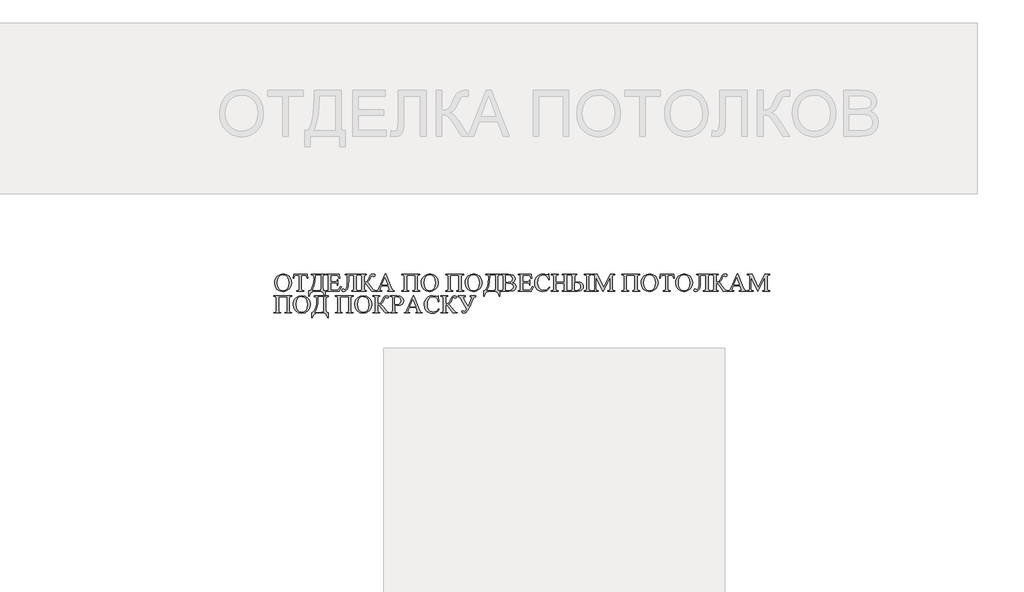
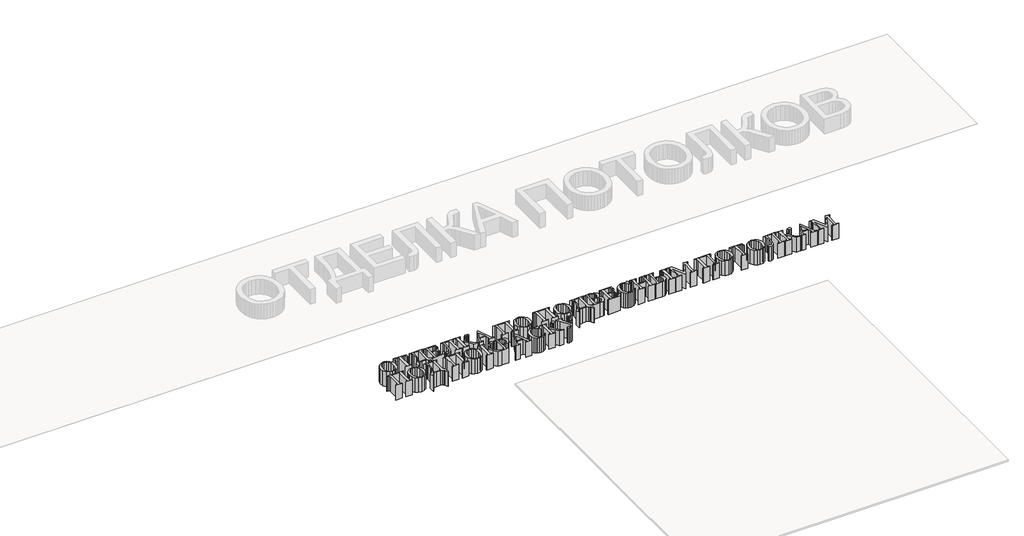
# One storey, part 16 of 17: 1 proxy.
"""IFC4 building model written with IfcOpenShell, lengths in millimetres."""

from ifc_helpers import new_model, si_unit, origin, origin_with_axes, place, context, project, spatial, polyline, outline, extrude, element, save

model = new_model("IFC4")

# Units and contexts
model_context = context("Model", 3, world=origin())
ifc_project = project(units=[si_unit("LENGTHUNIT", "METRE", prefix="MILLI")], contexts=[model_context])

# Site, building, storey
site = spatial("IfcSite", under=ifc_project)
building = spatial("IfcBuilding", under=site)
storey = spatial("IfcBuildingStorey", under=building, Name="Уровень 1", Elevation=0.0)

# Proxy
placement = place(None, origin())
element("IfcBuildingElementProxy", 1, Name="SG_Текст 2", ObjectType="SG_Текст 2", at=placement, inside=storey, context=model_context, shape_type="SweptSolid", body=[
    extrude(outline(polyline([(6805.5457971, 17619.3850863), (6833.251642, 17613.9243699), (6856.9951991, 17597.5422205), (6873.317009, 17572.994138), (6878.7576123, 17543.0356218), (6873.2767827, 17512.2273257), (6856.834294, 17487.1412168), (6832.6080216, 17470.4724553), (6803.7758411, 17464.9162014), (6774.7978403, 17470.3366916), (6750.8581801, 17486.5981621), (6734.7928127, 17511.4680548), (6729.4376902, 17542.7138117), (6730.9838876, 17559.485653), (6735.6224796, 17574.6434152), (6743.3534663, 17588.1870981), (6754.1768476, 17600.116702), (6777.7594996, 17614.5679902), (6805.5457971, 17619.3850863)]), holes=[polyline([(6803.4138046, 17611.6616421), (6784.9700589, 17607.9809382), (6770.5891666, 17596.9388265), (6759.0341699, 17574.3417181), (6755.1825044, 17543.2367532), (6759.1749619, 17511.1965275), (6771.1523344, 17487.4831401), (6785.3823782, 17476.3505193), (6803.5344835, 17472.6396457), (6823.1447911, 17476.7024992), (6839.0140555, 17488.8910596), (6849.5131125, 17509.8388908), (6853.0127981, 17540.1795565), (6849.1611326, 17573.3260047), (6837.6061359, 17596.8181476), (6822.8833203, 17607.9507685), (6803.4138046, 17611.6616421)])]), origin_with_axes(), (0.0, 0.0, 1.0), 150.0),
    extrude(outline(polyline([(7017.7796087, 17616.8106049), (7020.3540901, 17583.3423465), (7016.1705578, 17583.3423465), (7012.7513247, 17596.6170163), (7003.3987164, 17606.0500771), (6987.971941, 17609.0871606), (6966.2899804, 17609.0871606), (6966.2899804, 17493.235497), (6969.186272, 17474.9727695), (6981.8173214, 17470.0651643), (6986.8858317, 17470.0651643), (6986.8858317, 17467.4906828), (6925.0982777, 17467.4906828), (6925.0982777, 17470.0651643), (6930.2472406, 17470.0651643), (6938.1215333, 17471.583706), (6943.320779, 17476.1393313), (6945.6941291, 17493.235497), (6945.6941291, 17609.0871606), (6927.8336643, 17609.0871606), (6913.0303961, 17607.5585623), (6903.255412, 17599.4931947), (6898.4282593, 17583.3423465), (6894.2045008, 17583.3423465), (6896.7789822, 17616.8106049), (7017.7796087, 17616.8106049)])), origin_with_axes(), (0.0, 0.0, 1.0), 150.0),
    extrude(outline(polyline([(7051.2478671, 17616.8106049), (7174.8229749, 17616.8106049), (7174.8229749, 17611.6616421), (7157.9078275, 17607.2769784), (7154.2271236, 17588.6924407), (7154.2271236, 17506.4699405), (7156.9826233, 17476.9840831), (7162.820461, 17472.7603245), (7174.8229749, 17471.352405), (7174.8229749, 17423.7244988), (7169.6740121, 17423.7244988), (7159.3961996, 17450.4950829), (7151.8236039, 17458.9677414), (7143.3056908, 17464.0714497), (7121.764522, 17467.4906828), (7084.9172568, 17467.4906828), (7063.9493125, 17464.04128), (7049.3974585, 17453.6930715), (7040.3264342, 17439.3021227), (7035.8009786, 17423.7244988), (7030.6520157, 17423.7244988), (7030.6520157, 17471.352405), (7046.0033668, 17477.3964023), (7058.186899, 17492.4711978), (7067.162386, 17514.2939504), (7072.8896014, 17540.5818193), (7076.9926812, 17587.3649737), (7074.1366159, 17603.4554825), (7067.358489, 17609.9117992), (7051.2478671, 17611.6616421), (7051.2478671, 17616.8106049)]), holes=[polyline([(7089.8650883, 17609.0871606), (7085.9028005, 17553.1676141), (7079.4867101, 17516.8684318), (7070.5363645, 17493.2103556), (7058.9713113, 17475.2141271), (7113.3572312, 17475.2141271), (7130.7550939, 17477.8087216), (7133.6312723, 17494.7238691), (7133.6312723, 17609.0871606), (7089.8650883, 17609.0871606)])]), origin_with_axes(), (0.0, 0.0, 1.0), 150.0),
    extrude(outline(polyline([(7223.7381218, 17609.0871606), (7223.7381218, 17549.8740881), (7259.7808616, 17549.8740881), (7276.6356696, 17553.5346789), (7281.050503, 17560.1820703), (7282.9511944, 17570.4699394), (7285.5256758, 17570.4699394), (7285.5256758, 17521.5547925), (7282.9511944, 17521.5547925), (7279.8939977, 17534.5076522), (7273.4980204, 17540.1192171), (7259.7808616, 17542.1506439), (7223.7381218, 17542.1506439), (7223.7381218, 17492.1896139), (7224.6633261, 17479.9608272), (7227.901541, 17476.5013678), (7236.6507552, 17475.2141271), (7263.2000948, 17475.2141271), (7282.4885922, 17477.0645356), (7294.0536455, 17484.3857171), (7308.6960085, 17506.1079041), (7313.8449713, 17506.1079041), (7300.2484914, 17467.4906828), (7182.5464192, 17467.4906828), (7182.5464192, 17470.0651643), (7187.6551557, 17470.0651643), (7197.3094611, 17472.7200982), (7201.9153692, 17478.2109844), (7203.1422705, 17493.235497), (7203.1422705, 17591.0657907), (7200.3666577, 17609.5698759), (7187.6551557, 17614.2361235), (7182.5464192, 17614.2361235), (7182.5464192, 17616.8106049), (7298.3980828, 17616.8106049), (7300.9725643, 17583.3423465), (7295.8236014, 17583.3423465), (7290.5539598, 17600.3178333), (7281.9857638, 17607.3574309), (7265.9757075, 17609.0871606), (7223.7381218, 17609.0871606)])), origin_with_axes(), (0.0, 0.0, 1.0), 150.0),
    extrude(outline(polyline([(7427.1221536, 17609.0871606), (7380.7814881, 17609.0871606), (7380.7814881, 17566.8898012), (7377.9958188, 17514.2185262), (7369.6388107, 17483.9633413), (7356.3842541, 17469.6779864), (7338.9059388, 17464.9162014), (7326.073758, 17468.8986024), (7321.5684156, 17478.150645), (7324.4647072, 17485.1299032), (7331.5043048, 17488.0865342), (7339.4288804, 17484.4259434), (7348.4797916, 17480.3630899), (7357.3144866, 17484.3605757), (7364.349056, 17496.3530331), (7368.9499358, 17519.4982244), (7370.4835624, 17556.953912), (7370.4835624, 17588.4108568), (7366.8028586, 17607.2367521), (7349.8877111, 17611.6616421), (7349.8877111, 17616.8106049), (7468.3138562, 17616.8106049), (7468.3138562, 17614.2361235), (7451.3987088, 17609.8313467), (7447.7180049, 17591.0657907), (7447.7180049, 17493.235497), (7451.3987088, 17474.4699411), (7468.3138562, 17470.0651643), (7468.3138562, 17467.4906828), (7406.5263023, 17467.4906828), (7406.5263023, 17470.0651643), (7423.4414497, 17474.4699411), (7427.1221536, 17493.235497), (7427.1221536, 17609.0871606)])), origin_with_axes(), (0.0, 0.0, 1.0), 150.0),
    extrude(outline(polyline([(7621.4150478, 17471.5937626), (7621.4150478, 17467.4906828), (7582.4357901, 17467.4906828), (7555.6450929, 17505.3234918), (7530.7450305, 17536.2977213), (7517.2290031, 17539.5761624), (7517.2290031, 17493.235497), (7520.8493676, 17474.4699411), (7537.8248544, 17470.0651643), (7537.8248544, 17467.4906828), (7476.0373004, 17467.4906828), (7476.0373004, 17470.0651643), (7492.9122216, 17474.4297148), (7496.6331518, 17493.235497), (7496.6331518, 17591.0657907), (7492.9524479, 17609.8313467), (7476.0373004, 17614.2361235), (7476.0373004, 17616.8106049), (7537.8248544, 17616.8106049), (7537.8248544, 17614.2361235), (7520.8493676, 17609.8313467), (7517.2290031, 17591.0657907), (7517.2290031, 17547.2996067), (7534.1039242, 17548.9287707), (7544.6432075, 17555.8476895), (7553.9153632, 17567.4931953), (7562.6846905, 17588.0085941), (7570.8908501, 17606.633358), (7581.1083232, 17615.6239299), (7597.8424524, 17619.3850863), (7610.7550857, 17616.2876633), (7615.0592968, 17606.9953945), (7611.6601768, 17599.4328553), (7603.8763932, 17596.2147536), (7593.3773362, 17600.277607), (7584.3666512, 17603.9381978), (7578.2120316, 17600.1971545), (7570.0460983, 17581.1299015), (7557.8575379, 17557.7483809), (7542.6922333, 17544.8055778), (7553.3924217, 17536.0161374), (7569.3220254, 17516.2449246), (7598.4056202, 17480.6849001), (7608.8644509, 17474.0073389), (7621.4150478, 17471.5937626)])), origin_with_axes(), (0.0, 0.0, 1.0), 150.0),
    extrude(outline(polyline([(7726.6872019, 17516.4058297), (7668.4395599, 17516.4058297), (7658.8254809, 17494.0400224), (7655.0844376, 17480.1217323), (7658.3427656, 17473.6855287), (7672.4219608, 17470.0651643), (7672.4219608, 17467.4906828), (7624.9549598, 17467.4906828), (7624.9549598, 17470.0651643), (7637.1032939, 17474.7314118), (7649.6136646, 17498.1028759), (7701.9882708, 17619.3850863), (7707.4992701, 17619.3850863), (7756.6557746, 17496.1317886), (7768.1202622, 17475.4152584), (7782.440815, 17470.0651643), (7782.440815, 17467.4906828), (7723.4288739, 17467.4906828), (7723.4288739, 17470.0651643), (7735.5168686, 17473.3838317), (7738.674631, 17480.2826374), (7734.2497411, 17497.4190293), (7726.6872019, 17516.4058297)]), holes=[polyline([(7723.5897789, 17524.129274), (7698.7299428, 17584.750266), (7671.7783405, 17524.129274), (7723.5897789, 17524.129274)])]), origin_with_axes(), (0.0, 0.0, 1.0), 150.0),
    extrude(outline(polyline([(7965.1887692, 17609.0871606), (7890.5288082, 17609.0871606), (7890.5288082, 17493.235497), (7894.1491727, 17474.4699411), (7911.1246595, 17470.0651643), (7911.1246595, 17467.4906828), (7849.3371055, 17467.4906828), (7849.3371055, 17470.0651643), (7866.252253, 17474.4699411), (7869.9329569, 17493.235497), (7869.9329569, 17591.0657907), (7866.252253, 17609.8313467), (7849.3371055, 17614.2361235), (7849.3371055, 17616.8106049), (8006.3804718, 17616.8106049), (8006.3804718, 17614.2361235), (7989.4653244, 17609.8313467), (7985.7846205, 17591.0657907), (7985.7846205, 17493.235497), (7989.4653244, 17474.4699411), (8006.3804718, 17470.0651643), (8006.3804718, 17467.4906828), (7944.5929179, 17467.4906828), (7944.5929179, 17470.0651643), (7961.4879522, 17474.4297148), (7965.1887692, 17493.235497), (7965.1887692, 17609.0871606)])), origin_with_axes(), (0.0, 0.0, 1.0), 150.0),
    extrude(outline(polyline([(8095.3609857, 17619.3850863), (8123.0668306, 17613.9243699), (8146.8103877, 17597.5422205), (8163.1321976, 17572.994138), (8168.5728009, 17543.0356218), (8163.0919714, 17512.2273257), (8146.6494826, 17487.1412168), (8122.4232103, 17470.4724553), (8093.5910297, 17464.9162014), (8064.613029, 17470.3366916), (8040.6733688, 17486.5981621), (8024.6080014, 17511.4680548), (8019.2528789, 17542.7138117), (8020.7990762, 17559.485653), (8025.4376682, 17574.6434152), (8033.1686549, 17588.1870981), (8043.9920362, 17600.116702), (8067.5746883, 17614.5679902), (8095.3609857, 17619.3850863)]), holes=[polyline([(8093.2289933, 17611.6616421), (8074.7852475, 17607.9809382), (8060.4043552, 17596.9388265), (8048.8493586, 17574.3417181), (8044.997693, 17543.2367532), (8048.9901505, 17511.1965275), (8060.9675231, 17487.4831401), (8075.1975668, 17476.3505193), (8093.3496721, 17472.6396457), (8112.9599797, 17476.7024992), (8128.8292441, 17488.8910596), (8139.3283011, 17509.8388908), (8142.8279868, 17540.1795565), (8138.9763212, 17573.3260047), (8127.4213246, 17596.8181476), (8112.698509, 17607.9507685), (8093.2289933, 17611.6616421)])]), origin_with_axes(), (0.0, 0.0, 1.0), 150.0),
    extrude(outline(polyline([(8351.3609814, 17609.0871606), (8276.7010203, 17609.0871606), (8276.7010203, 17493.235497), (8280.3213848, 17474.4699411), (8297.2968716, 17470.0651643), (8297.2968716, 17467.4906828), (8235.5093177, 17467.4906828), (8235.5093177, 17470.0651643), (8252.4244651, 17474.4699411), (8256.105169, 17493.235497), (8256.105169, 17591.0657907), (8252.4244651, 17609.8313467), (8235.5093177, 17614.2361235), (8235.5093177, 17616.8106049), (8392.552684, 17616.8106049), (8392.552684, 17614.2361235), (8375.6375366, 17609.8313467), (8371.9568327, 17591.0657907), (8371.9568327, 17493.235497), (8375.6375366, 17474.4699411), (8392.552684, 17470.0651643), (8392.552684, 17467.4906828), (8330.76513, 17467.4906828), (8330.76513, 17470.0651643), (8347.6601643, 17474.4297148), (8351.3609814, 17493.235497), (8351.3609814, 17609.0871606)])), origin_with_axes(), (0.0, 0.0, 1.0), 150.0),
    extrude(outline(polyline([(8481.5331979, 17619.3850863), (8509.2390428, 17613.9243699), (8532.9825999, 17597.5422205), (8549.3044098, 17572.994138), (8554.7450131, 17543.0356218), (8549.2641835, 17512.2273257), (8532.8216948, 17487.1412168), (8508.5954224, 17470.4724553), (8479.7632419, 17464.9162014), (8450.7852411, 17470.3366916), (8426.845581, 17486.5981621), (8410.7802135, 17511.4680548), (8405.4250911, 17542.7138117), (8406.9712884, 17559.485653), (8411.6098804, 17574.6434152), (8419.3408671, 17588.1870981), (8430.1642484, 17600.116702), (8453.7469004, 17614.5679902), (8481.5331979, 17619.3850863)]), holes=[polyline([(8479.4012055, 17611.6616421), (8460.9574597, 17607.9809382), (8446.5765674, 17596.9388265), (8435.0215708, 17574.3417181), (8431.1699052, 17543.2367532), (8435.1623627, 17511.1965275), (8447.1397352, 17487.4831401), (8461.369779, 17476.3505193), (8479.5218843, 17472.6396457), (8499.1321919, 17476.7024992), (8515.0014563, 17488.8910596), (8525.5005133, 17509.8388908), (8529.000199, 17540.1795565), (8525.1485334, 17573.3260047), (8513.5935367, 17596.8181476), (8498.8707211, 17607.9507685), (8479.4012055, 17611.6616421)])]), origin_with_axes(), (0.0, 0.0, 1.0), 150.0),
    extrude(outline(polyline([(8588.2132715, 17616.8106049), (8711.7883794, 17616.8106049), (8711.7883794, 17611.6616421), (8694.873232, 17607.2769784), (8691.1925281, 17588.6924407), (8691.1925281, 17506.4699405), (8693.9480277, 17476.9840831), (8699.7858654, 17472.7603245), (8711.7883794, 17471.352405), (8711.7883794, 17423.7244988), (8706.6394165, 17423.7244988), (8696.361604, 17450.4950829), (8688.7890083, 17458.9677414), (8680.2710952, 17464.0714497), (8658.7299265, 17467.4906828), (8621.8826612, 17467.4906828), (8600.9147169, 17464.04128), (8586.362863, 17453.6930715), (8577.2918386, 17439.3021227), (8572.766383, 17423.7244988), (8567.6174202, 17423.7244988), (8567.6174202, 17471.352405), (8582.9687713, 17477.3964023), (8595.1523034, 17492.4711978), (8604.1277904, 17514.2939504), (8609.8550059, 17540.5818193), (8613.9580856, 17587.3649737), (8611.1020203, 17603.4554825), (8604.3238935, 17609.9117992), (8588.2132715, 17611.6616421), (8588.2132715, 17616.8106049)]), holes=[polyline([(8626.8304927, 17609.0871606), (8622.8682049, 17553.1676141), (8616.4521145, 17516.8684318), (8607.501769, 17493.2103556), (8595.9367157, 17475.2141271), (8650.3226356, 17475.2141271), (8667.7204983, 17477.8087216), (8670.5966767, 17494.7238691), (8670.5966767, 17609.0871606), (8626.8304927, 17609.0871606)])]), origin_with_axes(), (0.0, 0.0, 1.0), 150.0),
    extrude(outline(polyline([(8819.0718471, 17542.8344905), (8832.7890059, 17538.5906188), (8842.56399, 17532.3756597), (8850.6796404, 17521.2430389), (8853.3848572, 17507.87786), (8851.6299861, 17497.1223605), (8846.3653727, 17486.8194066), (8838.0435626, 17478.1053904), (8827.1171015, 17472.1167041), (8789.7468947, 17467.4906828), (8719.5118236, 17467.4906828), (8719.5118236, 17470.0651643), (8724.8619178, 17470.0651643), (8732.5350792, 17471.6038192), (8737.6940986, 17476.2197839), (8740.1076749, 17493.235497), (8740.1076749, 17591.0657907), (8737.0504783, 17609.2078395), (8724.8619178, 17614.2361235), (8719.5118236, 17614.2361235), (8719.5118236, 17616.8106049), (8783.3911437, 17616.8106049), (8812.0724757, 17614.1556709), (8826.5036508, 17608.5893605), (8837.0529907, 17599.9356837), (8843.5093074, 17588.9689963), (8845.6614129, 17576.463654), (8843.9769378, 17565.7131827), (8838.9235124, 17556.1493866), (8830.5916457, 17548.3354332), (8819.0718471, 17542.8344905)]), holes=[polyline([(8760.7035263, 17478.150645), (8786.247209, 17475.2141271), (8804.0423062, 17477.4316003), (8817.0404203, 17484.0840201), (8824.9901374, 17493.9947679), (8827.640043, 17505.9872252), (8822.7927772, 17522.5001099), (8816.4571394, 17529.600047), (8807.1447574, 17535.0104806), (8780.4143996, 17539.5761624), (8768.6079887, 17539.354918), (8760.7035263, 17538.6107319), (8760.7035263, 17478.150645)]), polyline([(8760.7035263, 17548.8684313), (8770.1164739, 17547.7018694), (8781.7418666, 17547.2996067), (8806.2195531, 17550.7992924), (8813.0479628, 17555.2241823), (8817.1610991, 17561.4994807), (8819.9165988, 17577.2681794), (8817.3521739, 17589.4919378), (8809.6588994, 17599.7747786), (8797.0479631, 17606.7590651), (8779.730553, 17609.0871606), (8760.7035263, 17606.633358), (8760.7035263, 17548.8684313)])]), origin_with_axes(), (0.0, 0.0, 1.0), 150.0),
    extrude(outline(polyline([(8912.5979297, 17609.0871606), (8912.5979297, 17549.8740881), (8948.6406695, 17549.8740881), (8965.4954775, 17553.5346789), (8969.9103109, 17560.1820703), (8971.8110022, 17570.4699394), (8974.3854837, 17570.4699394), (8974.3854837, 17521.5547925), (8971.8110022, 17521.5547925), (8968.7538056, 17534.5076522), (8962.3578283, 17540.1192171), (8948.6406695, 17542.1506439), (8912.5979297, 17542.1506439), (8912.5979297, 17492.1896139), (8913.523134, 17479.9608272), (8916.7613489, 17476.5013678), (8925.510563, 17475.2141271), (8952.0599026, 17475.2141271), (8971.3484001, 17477.0645356), (8982.9134533, 17484.3857171), (8997.5558164, 17506.1079041), (9002.7047792, 17506.1079041), (8989.1082992, 17467.4906828), (8871.4062271, 17467.4906828), (8871.4062271, 17470.0651643), (8876.5149636, 17470.0651643), (8886.1692689, 17472.7200982), (8890.7751771, 17478.2109844), (8892.0020784, 17493.235497), (8892.0020784, 17591.0657907), (8889.2264656, 17609.5698759), (8876.5149636, 17614.2361235), (8871.4062271, 17614.2361235), (8871.4062271, 17616.8106049), (8987.2578907, 17616.8106049), (8989.8323721, 17583.3423465), (8984.6834093, 17583.3423465), (8979.4137677, 17600.3178333), (8970.8455717, 17607.3574309), (8954.8355154, 17609.0871606), (8912.5979297, 17609.0871606)])), origin_with_axes(), (0.0, 0.0, 1.0), 150.0),
    extrude(outline(polyline([(9141.7267756, 17619.3850863), (9144.301257, 17567.895458), (9141.7267756, 17567.895458), (9133.6161535, 17587.9231132), (9122.6394095, 17601.4240558), (9108.997675, 17609.1022455), (9092.8920813, 17611.6616421), (9079.0291022, 17609.8062053), (9066.5639862, 17604.2398949), (9056.0548726, 17594.6057027), (9048.059901, 17580.5466206), (9043.0064756, 17562.2889213), (9041.3220004, 17540.0588777), (9042.926023, 17521.4341137), (9047.7380908, 17505.4642837), (9055.778317, 17492.5315372), (9067.0668146, 17483.0180239), (9080.884539, 17477.1651013), (9096.5124457, 17475.2141271), (9121.8751103, 17480.9061446), (9133.4150221, 17489.4089729), (9146.0309867, 17503.5334226), (9149.4502198, 17500.9589412), (9137.3370836, 17484.7628384), (9123.3634824, 17473.5849631), (9107.0567573, 17467.0833918), (9087.9442498, 17464.9162014), (9070.5036467, 17466.6182756), (9055.1497815, 17471.724498), (9041.8826541, 17480.2348687), (9030.7022646, 17492.1493876), (9019.3584559, 17514.2134979), (9015.5771863, 17539.8577464), (9018.0762434, 17561.0821332), (9025.5734149, 17580.5063943), (9037.45525, 17596.9438547), (9053.1082982, 17609.2078395), (9071.4615348, 17616.8407746), (9091.4439355, 17619.3850863), (9123.303143, 17613.4718243), (9129.9002516, 17611.6616421), (9135.0894407, 17613.2304667), (9139.1522942, 17619.3850863), (9141.7267756, 17619.3850863)])), origin_with_axes(), (0.0, 0.0, 1.0), 150.0),
    extrude(outline(polyline([(9203.5143295, 17547.2996067), (9278.1742906, 17547.2996067), (9278.1742906, 17591.0657907), (9276.8065973, 17606.633358), (9272.3414811, 17611.500737), (9262.6871758, 17614.2361235), (9257.5784392, 17614.2361235), (9257.5784392, 17616.8106049), (9319.3659932, 17616.8106049), (9319.3659932, 17614.2361235), (9314.2572566, 17614.2361235), (9304.6029513, 17611.6214158), (9299.9970432, 17606.1104165), (9298.7701419, 17591.0657907), (9298.7701419, 17493.235497), (9300.1378351, 17477.708156), (9304.5224988, 17472.8005508), (9314.2572566, 17470.0651643), (9319.3659932, 17470.0651643), (9319.3659932, 17467.4906828), (9257.5784392, 17467.4906828), (9257.5784392, 17470.0651643), (9262.6871758, 17470.0651643), (9270.2999978, 17471.4630272), (9275.5193566, 17475.6566161), (9278.1742906, 17493.235497), (9278.1742906, 17539.5761624), (9203.5143295, 17539.5761624), (9203.5143295, 17493.235497), (9204.8820228, 17477.708156), (9209.3069127, 17472.8005508), (9218.9209918, 17470.0651643), (9224.1101809, 17470.0651643), (9224.1101809, 17467.4906828), (9162.3226269, 17467.4906828), (9162.3226269, 17470.0651643), (9167.4313635, 17470.0651643), (9175.1145814, 17471.4630272), (9180.3842231, 17475.6566161), (9182.9184782, 17493.235497), (9182.9184782, 17591.0657907), (9181.550785, 17606.633358), (9177.1661213, 17611.500737), (9167.4313635, 17614.2361235), (9162.3226269, 17614.2361235), (9162.3226269, 17616.8106049), (9224.1101809, 17616.8106049), (9224.1101809, 17614.2361235), (9218.9209918, 17614.2361235), (9209.3069127, 17611.6214158), (9204.7814571, 17606.1104165), (9203.5143295, 17591.0657907), (9203.5143295, 17547.2996067)])), origin_with_axes(), (0.0, 0.0, 1.0), 150.0),
    extrude(outline(polyline([(9368.2811401, 17549.8740881), (9374.3955334, 17549.8740881), (9415.7079149, 17546.3945156), (9427.6802591, 17541.320977), (9437.2088573, 17533.0595064), (9443.4389012, 17522.218526), (9445.5155825, 17509.4064584), (9442.4231878, 17493.7332971), (9433.1460038, 17480.1016191), (9416.2962241, 17470.6434169), (9390.4860423, 17467.4906828), (9327.0894374, 17467.4906828), (9327.0894374, 17470.0651643), (9344.0045848, 17474.4699411), (9347.6852887, 17493.235497), (9347.6852887, 17591.0657907), (9344.0045848, 17609.8313467), (9327.0894374, 17614.2361235), (9327.0894374, 17616.8106049), (9388.8769914, 17616.8106049), (9388.8769914, 17614.2361235), (9371.961844, 17609.8313467), (9368.2811401, 17591.0657907), (9368.2811401, 17549.8740881)]), holes=[polyline([(9368.2811401, 17476.7829517), (9383.647576, 17475.2141271), (9396.7864821, 17477.4869115), (9408.6079778, 17484.3052646), (9416.9800707, 17495.1361883), (9419.7707684, 17509.4466846), (9416.8543636, 17523.9432275), (9408.1051494, 17534.1255026), (9394.8707059, 17540.1443585), (9378.4986132, 17542.1506439), (9368.2811401, 17541.2656659), (9368.2811401, 17476.7829517)])]), origin_with_axes(), (0.0, 0.0, 1.0), 150.0),
    extrude(outline(polyline([(9515.0265807, 17470.0651643), (9515.0265807, 17467.4906828), (9453.2390267, 17467.4906828), (9453.2390267, 17470.0651643), (9457.5030116, 17470.0651643), (9467.4590139, 17472.3379486), (9472.6079768, 17478.2713238), (9473.8348781, 17493.235497), (9473.8348781, 17591.4680535), (9472.5074111, 17606.2713216), (9467.2981088, 17612.2248099), (9456.5375811, 17614.2361235), (9453.2390267, 17614.2361235), (9453.2390267, 17616.8106049), (9515.0265807, 17616.8106049), (9515.0265807, 17614.2361235), (9511.8487052, 17614.2361235), (9501.2289694, 17612.1845836), (9495.858762, 17606.190869), (9494.4307294, 17591.0657907), (9494.4307294, 17493.235497), (9497.7292837, 17474.751525), (9502.9084162, 17471.2367544), (9511.8487052, 17470.0651643), (9515.0265807, 17470.0651643)])), origin_with_axes(), (0.0, 0.0, 1.0), 150.0),
    extrude(outline(polyline([(9615.4313558, 17467.4906828), (9556.2182833, 17593.1173306), (9556.2182833, 17493.235497), (9559.1145749, 17474.9727695), (9571.6651718, 17470.0651643), (9576.8141346, 17470.0651643), (9576.8141346, 17467.4906828), (9525.3245063, 17467.4906828), (9525.3245063, 17470.0651643), (9530.4734692, 17470.0651643), (9538.3477619, 17471.583706), (9543.5470076, 17476.1393313), (9545.9203577, 17493.235497), (9545.9203577, 17591.0657907), (9543.7883652, 17606.2713216), (9538.2371397, 17611.9633391), (9525.3245063, 17614.2361235), (9525.3245063, 17616.8106049), (9567.6023183, 17616.8106049), (9622.7123111, 17499.6717005), (9680.3163327, 17616.8106049), (9720.9850938, 17616.8106049), (9720.9850938, 17614.2361235), (9715.9568098, 17614.2361235), (9707.992008, 17612.7175817), (9702.7625926, 17608.1619564), (9700.3892425, 17591.0657907), (9700.3892425, 17493.235497), (9703.4062129, 17474.9727695), (9715.9568098, 17470.0651643), (9720.9850938, 17470.0651643), (9720.9850938, 17467.4906828), (9659.1975399, 17467.4906828), (9659.1975399, 17470.0651643), (9664.3465027, 17470.0651643), (9672.2811349, 17471.583706), (9677.4200412, 17476.1393313), (9679.7933912, 17493.235497), (9679.7933912, 17593.1173306), (9618.0058373, 17467.4906828), (9615.4313558, 17467.4906828)])), origin_with_axes(), (0.0, 0.0, 1.0), 150.0),
    extrude(outline(polyline([(9898.6243114, 17609.0871606), (9823.9643504, 17609.0871606), (9823.9643504, 17493.235497), (9827.5847149, 17474.4699411), (9844.5602017, 17470.0651643), (9844.5602017, 17467.4906828), (9782.7726478, 17467.4906828), (9782.7726478, 17470.0651643), (9799.6877952, 17474.4699411), (9803.3684991, 17493.235497), (9803.3684991, 17591.0657907), (9799.6877952, 17609.8313467), (9782.7726478, 17614.2361235), (9782.7726478, 17616.8106049), (9939.8160141, 17616.8106049), (9939.8160141, 17614.2361235), (9922.9008667, 17609.8313467), (9919.2201628, 17591.0657907), (9919.2201628, 17493.235497), (9922.9008667, 17474.4699411), (9939.8160141, 17470.0651643), (9939.8160141, 17467.4906828), (9878.0284601, 17467.4906828), (9878.0284601, 17470.0651643), (9894.9234944, 17474.4297148), (9898.6243114, 17493.235497), (9898.6243114, 17609.0871606)])), origin_with_axes(), (0.0, 0.0, 1.0), 150.0),
    extrude(outline(polyline([(10028.796528, 17619.3850863), (10056.5023729, 17613.9243699), (10080.24593, 17597.5422205), (10096.5677399, 17572.994138), (10102.0083432, 17543.0356218), (10096.5275136, 17512.2273257), (10080.0850249, 17487.1412168), (10055.8587525, 17470.4724553), (10027.026572, 17464.9162014), (9998.0485712, 17470.3366916), (9974.108911, 17486.5981621), (9958.0435436, 17511.4680548), (9952.6884211, 17542.7138117), (9954.2346185, 17559.485653), (9958.8732105, 17574.6434152), (9966.6041971, 17588.1870981), (9977.4275785, 17600.116702), (10001.0102305, 17614.5679902), (10028.796528, 17619.3850863)]), holes=[polyline([(10026.6645355, 17611.6616421), (10008.2207898, 17607.9809382), (9993.8398975, 17596.9388265), (9982.2849008, 17574.3417181), (9978.4332353, 17543.2367532), (9982.4256928, 17511.1965275), (9994.4030653, 17487.4831401), (10008.6331091, 17476.3505193), (10026.7852144, 17472.6396457), (10046.395522, 17476.7024992), (10062.2647863, 17488.8910596), (10072.7638434, 17509.8388908), (10076.263529, 17540.1795565), (10072.4118635, 17573.3260047), (10060.8568668, 17596.8181476), (10046.1340512, 17607.9507685), (10026.6645355, 17611.6616421)])]), origin_with_axes(), (0.0, 0.0, 1.0), 150.0),
    extrude(outline(polyline([(10241.0303396, 17616.8106049), (10243.604821, 17583.3423465), (10239.4212887, 17583.3423465), (10236.0020555, 17596.6170163), (10226.6494473, 17606.0500771), (10211.2226719, 17609.0871606), (10189.5407113, 17609.0871606), (10189.5407113, 17493.235497), (10192.4370029, 17474.9727695), (10205.0680523, 17470.0651643), (10210.1365626, 17470.0651643), (10210.1365626, 17467.4906828), (10148.3490086, 17467.4906828), (10148.3490086, 17470.0651643), (10153.4979715, 17470.0651643), (10161.3722642, 17471.583706), (10166.5715099, 17476.1393313), (10168.94486, 17493.235497), (10168.94486, 17609.0871606), (10151.0843951, 17609.0871606), (10136.281127, 17607.5585623), (10126.5061429, 17599.4931947), (10121.6789902, 17583.3423465), (10117.4552317, 17583.3423465), (10120.0297131, 17616.8106049), (10241.0303396, 17616.8106049)])), origin_with_axes(), (0.0, 0.0, 1.0), 150.0),
    extrude(outline(polyline([(10332.5853349, 17619.3850863), (10360.2911798, 17613.9243699), (10384.0347369, 17597.5422205), (10400.3565468, 17572.994138), (10405.7971501, 17543.0356218), (10400.3163205, 17512.2273257), (10383.8738318, 17487.1412168), (10359.6475594, 17470.4724553), (10330.8153789, 17464.9162014), (10301.8373781, 17470.3366916), (10277.8977179, 17486.5981621), (10261.8323505, 17511.4680548), (10256.477228, 17542.7138117), (10258.0234254, 17559.485653), (10262.6620174, 17574.6434152), (10270.3930041, 17588.1870981), (10281.2163854, 17600.116702), (10304.7990374, 17614.5679902), (10332.5853349, 17619.3850863)]), holes=[polyline([(10330.4533424, 17611.6616421), (10312.0095967, 17607.9809382), (10297.6287044, 17596.9388265), (10286.0737077, 17574.3417181), (10282.2220422, 17543.2367532), (10286.2144997, 17511.1965275), (10298.1918722, 17487.4831401), (10312.421916, 17476.3505193), (10330.5740213, 17472.6396457), (10350.1843289, 17476.7024992), (10366.0535932, 17488.8910596), (10376.5526503, 17509.8388908), (10380.0523359, 17540.1795565), (10376.2006704, 17573.3260047), (10364.6456737, 17596.8181476), (10349.9228581, 17607.9507685), (10330.4533424, 17611.6616421)])]), origin_with_axes(), (0.0, 0.0, 1.0), 150.0),
    extrude(outline(polyline([(10521.6488137, 17609.0871606), (10475.3081483, 17609.0871606), (10475.3081483, 17566.8898012), (10472.5224789, 17514.2185262), (10464.1654709, 17483.9633413), (10450.9109142, 17469.6779864), (10433.432599, 17464.9162014), (10420.6004182, 17468.8986024), (10416.0950757, 17478.150645), (10418.9913673, 17485.1299032), (10426.030965, 17488.0865342), (10433.9555406, 17484.4259434), (10443.0064518, 17480.3630899), (10451.8411468, 17484.3605757), (10458.8757161, 17496.3530331), (10463.476596, 17519.4982244), (10465.0102226, 17556.953912), (10465.0102226, 17588.4108568), (10461.3295187, 17607.2367521), (10444.4143713, 17611.6616421), (10444.4143713, 17616.8106049), (10562.8405164, 17616.8106049), (10562.8405164, 17614.2361235), (10545.9253689, 17609.8313467), (10542.2446651, 17591.0657907), (10542.2446651, 17493.235497), (10545.9253689, 17474.4699411), (10562.8405164, 17470.0651643), (10562.8405164, 17467.4906828), (10501.0529624, 17467.4906828), (10501.0529624, 17470.0651643), (10517.9681098, 17474.4699411), (10521.6488137, 17493.235497), (10521.6488137, 17609.0871606)])), origin_with_axes(), (0.0, 0.0, 1.0), 150.0),
    extrude(outline(polyline([(10715.941708, 17471.5937626), (10715.941708, 17467.4906828), (10676.9624503, 17467.4906828), (10650.1717531, 17505.3234918), (10625.2716907, 17536.2977213), (10611.7556632, 17539.5761624), (10611.7556632, 17493.235497), (10615.3760277, 17474.4699411), (10632.3515146, 17470.0651643), (10632.3515146, 17467.4906828), (10570.5639606, 17467.4906828), (10570.5639606, 17470.0651643), (10587.4388818, 17474.4297148), (10591.1598119, 17493.235497), (10591.1598119, 17591.0657907), (10587.479108, 17609.8313467), (10570.5639606, 17614.2361235), (10570.5639606, 17616.8106049), (10632.3515146, 17616.8106049), (10632.3515146, 17614.2361235), (10615.3760277, 17609.8313467), (10611.7556632, 17591.0657907), (10611.7556632, 17547.2996067), (10628.6305844, 17548.9287707), (10639.1698677, 17555.8476895), (10648.4420234, 17567.4931953), (10657.2113507, 17588.0085941), (10665.4175102, 17606.633358), (10675.6349833, 17615.6239299), (10692.3691125, 17619.3850863), (10705.2817459, 17616.2876633), (10709.585957, 17606.9953945), (10706.186837, 17599.4328553), (10698.4030533, 17596.2147536), (10687.9039963, 17600.277607), (10678.8933114, 17603.9381978), (10672.7386917, 17600.1971545), (10664.5727585, 17581.1299015), (10652.3841981, 17557.7483809), (10637.2188935, 17544.8055778), (10647.9190819, 17536.0161374), (10663.8486856, 17516.2449246), (10692.9322803, 17480.6849001), (10703.3911111, 17474.0073389), (10715.941708, 17471.5937626)])), origin_with_axes(), (0.0, 0.0, 1.0), 150.0),
    extrude(outline(polyline([(10821.2138621, 17516.4058297), (10762.9662201, 17516.4058297), (10753.352141, 17494.0400224), (10749.6110977, 17480.1217323), (10752.8694258, 17473.6855287), (10766.948621, 17470.0651643), (10766.948621, 17467.4906828), (10719.4816199, 17467.4906828), (10719.4816199, 17470.0651643), (10731.6299541, 17474.7314118), (10744.1403247, 17498.1028759), (10796.514931, 17619.3850863), (10802.0259303, 17619.3850863), (10851.1824348, 17496.1317886), (10862.6469223, 17475.4152584), (10876.9674752, 17470.0651643), (10876.9674752, 17467.4906828), (10817.955534, 17467.4906828), (10817.955534, 17470.0651643), (10830.0435288, 17473.3838317), (10833.2012912, 17480.2826374), (10828.7764012, 17497.4190293), (10821.2138621, 17516.4058297)]), holes=[polyline([(10818.1164391, 17524.129274), (10793.256603, 17584.750266), (10766.3050007, 17524.129274), (10818.1164391, 17524.129274)])]), origin_with_axes(), (0.0, 0.0, 1.0), 150.0),
    extrude(outline(polyline([(10977.3320241, 17467.4906828), (10918.1189516, 17593.1173306), (10918.1189516, 17493.235497), (10921.0152432, 17474.9727695), (10933.56584, 17470.0651643), (10938.7148029, 17470.0651643), (10938.7148029, 17467.4906828), (10887.2251746, 17467.4906828), (10887.2251746, 17470.0651643), (10892.3741374, 17470.0651643), (10900.2484302, 17471.583706), (10905.4476758, 17476.1393313), (10907.8210259, 17493.235497), (10907.8210259, 17591.0657907), (10905.6890335, 17606.2713216), (10900.1378079, 17611.9633391), (10887.2251746, 17614.2361235), (10887.2251746, 17616.8106049), (10929.5029866, 17616.8106049), (10984.6129793, 17499.6717005), (11042.217001, 17616.8106049), (11082.8857621, 17616.8106049), (11082.8857621, 17614.2361235), (11077.8574781, 17614.2361235), (11069.8926762, 17612.7175817), (11064.6632608, 17608.1619564), (11062.2899108, 17591.0657907), (11062.2899108, 17493.235497), (11065.3068812, 17474.9727695), (11077.8574781, 17470.0651643), (11082.8857621, 17470.0651643), (11082.8857621, 17467.4906828), (11021.0982081, 17467.4906828), (11021.0982081, 17470.0651643), (11026.247171, 17470.0651643), (11034.1818031, 17471.583706), (11039.3207094, 17476.1393313), (11041.6940595, 17493.235497), (11041.6940595, 17593.1173306), (10979.9065055, 17467.4906828), (10977.3320241, 17467.4906828)])), origin_with_axes(), (0.0, 0.0, 1.0), 150.0),
    extrude(outline(polyline([(6840.1403911, 17417.895458), (6765.4804301, 17417.895458), (6765.4804301, 17302.0437944), (6769.1007945, 17283.2782384), (6786.0762814, 17278.8734616), (6786.0762814, 17276.2989802), (6724.2887274, 17276.2989802), (6724.2887274, 17278.8734616), (6741.2038748, 17283.2782384), (6744.8845787, 17302.0437944), (6744.8845787, 17399.8740881), (6741.2038748, 17418.639644), (6724.2887274, 17423.0444208), (6724.2887274, 17425.6189023), (6881.3320937, 17425.6189023), (6881.3320937, 17423.0444208), (6864.4169463, 17418.639644), (6860.7362424, 17399.8740881), (6860.7362424, 17302.0437944), (6864.4169463, 17283.2782384), (6881.3320937, 17278.8734616), (6881.3320937, 17276.2989802), (6819.5445398, 17276.2989802), (6819.5445398, 17278.8734616), (6836.439574, 17283.2380122), (6840.1403911, 17302.0437944), (6840.1403911, 17417.895458)])), origin_with_axes(), (0.0, 0.0, 1.0), 150.0),
    extrude(outline(polyline([(6970.3126076, 17428.1933837), (6998.0184525, 17422.7326672), (7021.7620096, 17406.3505179), (7038.0838195, 17381.8024354), (7043.5244228, 17351.8439192), (7038.0435932, 17321.0356231), (7021.6011045, 17295.9495141), (6997.3748321, 17279.2807526), (6968.5426516, 17273.7244988), (6939.5646509, 17279.144989), (6915.6249907, 17295.4064595), (6899.5596232, 17320.2763522), (6894.2045008, 17351.522109), (6895.7506981, 17368.2939504), (6900.3892901, 17383.4517125), (6908.1202768, 17396.9953955), (6918.9436581, 17408.9249993), (6942.5263101, 17423.3762876), (6970.3126076, 17428.1933837)]), holes=[polyline([(6968.1806152, 17420.4699394), (6949.7368694, 17416.7892355), (6935.3559771, 17405.7471238), (6923.8009805, 17383.1500155), (6919.9493149, 17352.0450506), (6923.9417724, 17320.0048249), (6935.9191449, 17296.2914374), (6950.1491887, 17285.1588166), (6968.301294, 17281.447943), (6987.9116016, 17285.5107965), (7003.780866, 17297.699357), (7014.279923, 17318.6471882), (7017.7796087, 17348.9878539), (7013.9279431, 17382.1343021), (7002.3729465, 17405.626445), (6987.6501309, 17416.7590658), (6968.1806152, 17420.4699394)])]), origin_with_axes(), (0.0, 0.0, 1.0), 150.0),
    extrude(outline(polyline([(7076.9926812, 17425.6189023), (7200.5677891, 17425.6189023), (7200.5677891, 17420.4699394), (7183.6526417, 17416.0852758), (7179.9719378, 17397.5007381), (7179.9719378, 17315.2782379), (7182.7274374, 17285.7923804), (7188.5652752, 17281.5686219), (7200.5677891, 17280.1607023), (7200.5677891, 17232.5327962), (7195.4188263, 17232.5327962), (7185.1410137, 17259.3033803), (7177.568418, 17267.7760388), (7169.0505049, 17272.8797471), (7147.5093362, 17276.2989802), (7110.6620709, 17276.2989802), (7089.6941266, 17272.8495774), (7075.1422727, 17262.5013689), (7066.0712483, 17248.11042), (7061.5457927, 17232.5327962), (7056.3968299, 17232.5327962), (7056.3968299, 17280.1607023), (7071.748181, 17286.2046997), (7083.9317131, 17301.2794952), (7092.9072001, 17323.1022478), (7098.6344156, 17349.3901166), (7102.7374953, 17396.1732711), (7099.88143, 17412.2637799), (7093.1033032, 17418.7200966), (7076.9926812, 17420.4699394), (7076.9926812, 17425.6189023)]), holes=[polyline([(7115.6099024, 17417.895458), (7111.6476146, 17361.9759115), (7105.2315242, 17325.6767292), (7096.2811787, 17302.0186529), (7084.7161254, 17284.0224245), (7139.1020453, 17284.0224245), (7156.499908, 17286.617019), (7159.3760865, 17303.5321664), (7159.3760865, 17417.895458), (7115.6099024, 17417.895458)])]), origin_with_axes(), (0.0, 0.0, 1.0), 150.0),
    extrude(outline(polyline([(7380.7814881, 17417.895458), (7306.1215271, 17417.895458), (7306.1215271, 17302.0437944), (7309.7418916, 17283.2782384), (7326.7173784, 17278.8734616), (7326.7173784, 17276.2989802), (7264.9298245, 17276.2989802), (7264.9298245, 17278.8734616), (7281.8449719, 17283.2782384), (7285.5256758, 17302.0437944), (7285.5256758, 17399.8740881), (7281.8449719, 17418.639644), (7264.9298245, 17423.0444208), (7264.9298245, 17425.6189023), (7421.9731907, 17425.6189023), (7421.9731907, 17423.0444208), (7405.0580433, 17418.639644), (7401.3773394, 17399.8740881), (7401.3773394, 17302.0437944), (7405.0580433, 17283.2782384), (7421.9731907, 17278.8734616), (7421.9731907, 17276.2989802), (7360.1856368, 17276.2989802), (7360.1856368, 17278.8734616), (7377.0806711, 17283.2380122), (7380.7814881, 17302.0437944), (7380.7814881, 17417.895458)])), origin_with_axes(), (0.0, 0.0, 1.0), 150.0),
    extrude(outline(polyline([(7510.9537046, 17428.1933837), (7538.6595495, 17422.7326672), (7562.4031066, 17406.3505179), (7578.7249165, 17381.8024354), (7584.1655198, 17351.8439192), (7578.6846903, 17321.0356231), (7562.2422016, 17295.9495141), (7538.0159292, 17279.2807526), (7509.1837487, 17273.7244988), (7480.2057479, 17279.144989), (7456.2660877, 17295.4064595), (7440.2007203, 17320.2763522), (7434.8455978, 17351.522109), (7436.3917951, 17368.2939504), (7441.0303871, 17383.4517125), (7448.7613738, 17396.9953955), (7459.5847552, 17408.9249993), (7483.1674072, 17423.3762876), (7510.9537046, 17428.1933837)]), holes=[polyline([(7508.8217122, 17420.4699394), (7490.3779664, 17416.7892355), (7475.9970742, 17405.7471238), (7464.4420775, 17383.1500155), (7460.590412, 17352.0450506), (7464.5828695, 17320.0048249), (7476.560242, 17296.2914374), (7490.7902857, 17285.1588166), (7508.942391, 17281.447943), (7528.5526987, 17285.5107965), (7544.421963, 17297.699357), (7554.92102, 17318.6471882), (7558.4207057, 17348.9878539), (7554.5690401, 17382.1343021), (7543.0140435, 17405.626445), (7528.2912279, 17416.7590658), (7508.8217122, 17420.4699394)])]), origin_with_axes(), (0.0, 0.0, 1.0), 150.0),
    extrude(outline(polyline([(7739.8411929, 17280.40206), (7739.8411929, 17276.2989802), (7700.8619352, 17276.2989802), (7674.071238, 17314.1317891), (7649.1711756, 17345.1060186), (7635.6551481, 17348.3844598), (7635.6551481, 17302.0437944), (7639.2755126, 17283.2782384), (7656.2509995, 17278.8734616), (7656.2509995, 17276.2989802), (7594.4634455, 17276.2989802), (7594.4634455, 17278.8734616), (7611.3383667, 17283.2380122), (7615.0592968, 17302.0437944), (7615.0592968, 17399.8740881), (7611.3785929, 17418.639644), (7594.4634455, 17423.0444208), (7594.4634455, 17425.6189023), (7656.2509995, 17425.6189023), (7656.2509995, 17423.0444208), (7639.2755126, 17418.639644), (7635.6551481, 17399.8740881), (7635.6551481, 17356.1079041), (7652.5300693, 17357.7370681), (7663.0693526, 17364.6559869), (7672.3415083, 17376.3014927), (7681.1108356, 17396.8168914), (7689.3169951, 17415.4416554), (7699.5344682, 17424.4322272), (7716.2685974, 17428.1933837), (7729.1812308, 17425.0959607), (7733.4854419, 17415.8036919), (7730.0863219, 17408.2411527), (7722.3025382, 17405.0230509), (7711.8034812, 17409.0859044), (7702.7927963, 17412.7464952), (7696.6381766, 17409.0054519), (7688.4722434, 17389.9381989), (7676.283683, 17366.5566782), (7661.1183784, 17353.6138752), (7671.8185668, 17344.8244347), (7687.7481705, 17325.053222), (7716.8317652, 17289.4931975), (7727.290596, 17282.8156363), (7739.8411929, 17280.40206)])), origin_with_axes(), (0.0, 0.0, 1.0), 150.0),
    extrude(outline(polyline([(7787.5495516, 17346.5742776), (7787.5495516, 17302.0437944), (7790.5262957, 17283.9017456), (7802.6344036, 17278.8734616), (7808.1454029, 17278.8734616), (7808.1454029, 17276.2989802), (7746.357849, 17276.2989802), (7746.357849, 17278.8734616), (7751.7883957, 17278.8734616), (7759.6124056, 17280.4724559), (7764.8217079, 17285.2694389), (7766.9537003, 17302.0437944), (7766.9537003, 17399.8740881), (7764.097635, 17418.0161368), (7751.7883957, 17423.0444208), (7746.357849, 17423.0444208), (7746.357849, 17425.6189023), (7803.3182503, 17425.6189023), (7836.243454, 17421.4957094), (7847.3408768, 17415.9545404), (7856.5376082, 17407.5774192), (7862.7223976, 17396.8822591), (7864.783994, 17384.3869733), (7861.5156094, 17367.8288341), (7851.7104556, 17354.6798714), (7835.9417569, 17346.0965906), (7814.7827378, 17343.235497), (7802.1114621, 17344.0802487), (7787.5495516, 17346.5742776)]), holes=[polyline([(7787.5495516, 17353.1713862), (7799.0944917, 17351.522109), (7807.7029139, 17350.9589412), (7819.6149187, 17353.1914993), (7829.7670242, 17359.8891736), (7836.7211409, 17370.146873), (7839.0391799, 17383.0595064), (7834.6142899, 17401.181442), (7822.0838062, 17413.7320388), (7803.6400604, 17417.895458), (7787.5495516, 17415.8036919), (7787.5495516, 17353.1713862)])]), origin_with_axes(), (0.0, 0.0, 1.0), 150.0),
    extrude(outline(polyline([(7973.8374177, 17325.2141271), (7915.5897757, 17325.2141271), (7905.9756967, 17302.8483198), (7902.2346533, 17288.9300297), (7905.4929814, 17282.4938261), (7919.5721766, 17278.8734616), (7919.5721766, 17276.2989802), (7872.1051755, 17276.2989802), (7872.1051755, 17278.8734616), (7884.2535097, 17283.5397092), (7896.7638803, 17306.9111733), (7949.1384866, 17428.1933837), (7954.6494859, 17428.1933837), (8003.8059904, 17304.9400859), (8015.270478, 17284.2235558), (8029.5910308, 17278.8734616), (8029.5910308, 17276.2989802), (7970.5790896, 17276.2989802), (7970.5790896, 17278.8734616), (7982.6670844, 17282.1921291), (7985.8248468, 17289.0909347), (7981.3999568, 17306.2273267), (7973.8374177, 17325.2141271)]), holes=[polyline([(7970.7399947, 17332.9375713), (7945.8801586, 17393.5585634), (7918.9285563, 17332.9375713), (7970.7399947, 17332.9375713)])]), origin_with_axes(), (0.0, 0.0, 1.0), 150.0),
    extrude(outline(polyline([(8171.1472823, 17428.1933837), (8173.7217638, 17376.7037554), (8171.1472823, 17376.7037554), (8163.0366602, 17396.7314106), (8152.0599162, 17410.2323532), (8138.4181817, 17417.9105429), (8122.312588, 17420.4699394), (8108.449609, 17418.6145026), (8095.9844929, 17413.0481922), (8085.4753793, 17403.4140001), (8077.4804078, 17389.354918), (8072.4269823, 17371.0972187), (8070.7425072, 17348.8671751), (8072.3465298, 17330.2424111), (8077.1585976, 17314.2725811), (8085.1988237, 17301.3398346), (8096.4873213, 17291.8263212), (8110.3050458, 17285.9733987), (8125.9329525, 17284.0224245), (8151.2956171, 17289.714442), (8162.8355289, 17298.2172702), (8175.4514935, 17312.34172), (8178.8707266, 17309.7672386), (8166.7575904, 17293.5711358), (8152.7839891, 17282.3932604), (8136.4772641, 17275.8916892), (8117.3647565, 17273.7244988), (8099.9241534, 17275.4265729), (8084.5702882, 17280.5327954), (8071.3031608, 17289.043166), (8060.1227713, 17300.957685), (8048.7789626, 17323.0217953), (8044.997693, 17348.6660437), (8047.4967502, 17369.8904305), (8054.9939217, 17389.3146917), (8066.8757568, 17405.7521521), (8082.5288049, 17418.0161368), (8100.8820415, 17425.649072), (8120.8644422, 17428.1933837), (8152.7236497, 17422.2801217), (8159.3207583, 17420.4699394), (8164.5099474, 17422.038764), (8168.5728009, 17428.1933837), (8171.1472823, 17428.1933837)])), origin_with_axes(), (0.0, 0.0, 1.0), 150.0),
    extrude(outline(polyline([(8337.120881, 17280.40206), (8337.120881, 17276.2989802), (8298.1416234, 17276.2989802), (8271.3509261, 17314.1317891), (8246.4508637, 17345.1060186), (8232.9348363, 17348.3844598), (8232.9348363, 17302.0437944), (8236.5552008, 17283.2782384), (8253.5306876, 17278.8734616), (8253.5306876, 17276.2989802), (8191.7431337, 17276.2989802), (8191.7431337, 17278.8734616), (8208.6180548, 17283.2380122), (8212.338985, 17302.0437944), (8212.338985, 17399.8740881), (8208.6582811, 17418.639644), (8191.7431337, 17423.0444208), (8191.7431337, 17425.6189023), (8253.5306876, 17425.6189023), (8253.5306876, 17423.0444208), (8236.5552008, 17418.639644), (8232.9348363, 17399.8740881), (8232.9348363, 17356.1079041), (8249.8097574, 17357.7370681), (8260.3490407, 17364.6559869), (8269.6211964, 17376.3014927), (8278.3905238, 17396.8168914), (8286.5966833, 17415.4416554), (8296.8141564, 17424.4322272), (8313.5482856, 17428.1933837), (8326.4609189, 17425.0959607), (8330.76513, 17415.8036919), (8327.36601, 17408.2411527), (8319.5822264, 17405.0230509), (8309.0831694, 17409.0859044), (8300.0724844, 17412.7464952), (8293.9178648, 17409.0054519), (8285.7519316, 17389.9381989), (8273.5633711, 17366.5566782), (8258.3980665, 17353.6138752), (8269.0982549, 17344.8244347), (8285.0278587, 17325.053222), (8314.1114534, 17289.4931975), (8324.5702841, 17282.8156363), (8337.120881, 17280.40206)])), origin_with_axes(), (0.0, 0.0, 1.0), 150.0),
    extrude(outline(polyline([(8343.6375371, 17425.6189023), (8405.4250911, 17425.6189023), (8405.4250911, 17420.4699394), (8391.9090636, 17418.197155), (8387.4037212, 17412.5855901), (8399.350924, 17386.9614548), (8432.4571459, 17330.0010535), (8456.9147193, 17386.9614548), (8464.6381636, 17410.654729), (8461.4200618, 17417.0909326), (8451.7657565, 17420.4699394), (8451.7657565, 17425.6189023), (8498.106422, 17425.6189023), (8498.106422, 17420.4699394), (8483.5947943, 17414.1443581), (8473.0454545, 17398.9488838), (8444.0423123, 17331.2078416), (8425.6790191, 17294.4209158), (8410.2522437, 17278.7125565), (8392.9147204, 17273.7244988), (8379.8612951, 17276.8219218), (8374.5313141, 17285.2694389), (8377.2667006, 17291.7458687), (8384.7085609, 17294.3203501), (8395.6903332, 17291.1424746), (8402.166763, 17289.1713873), (8411.3383531, 17294.0085965), (8421.5558262, 17308.5202242), (8367.12968, 17402.0463068), (8356.6708493, 17415.2606372), (8343.6375371, 17420.4699394), (8343.6375371, 17425.6189023)])), origin_with_axes(), (0.0, 0.0, 1.0), 150.0),
])

save(model, "model.ifc")
